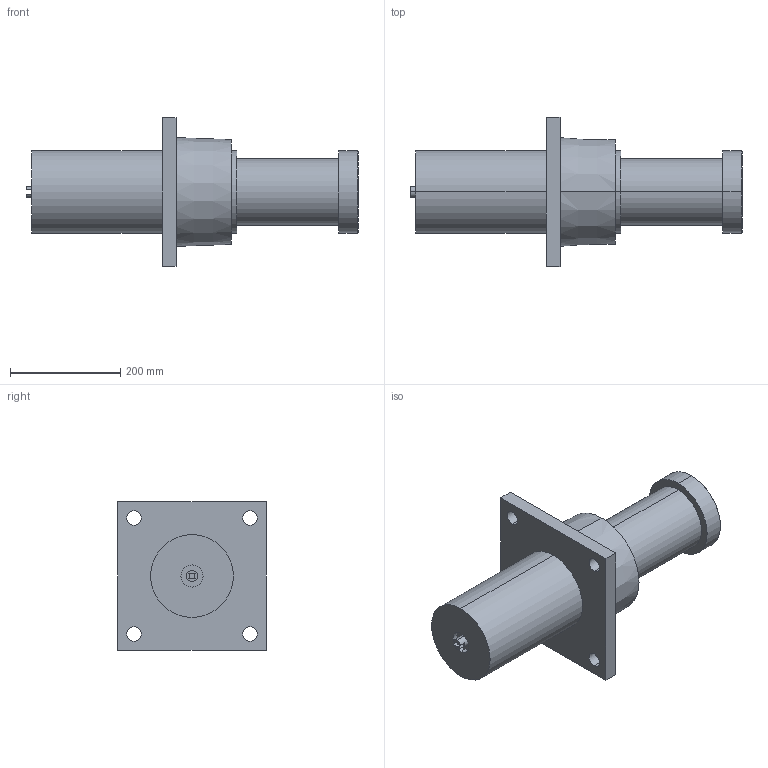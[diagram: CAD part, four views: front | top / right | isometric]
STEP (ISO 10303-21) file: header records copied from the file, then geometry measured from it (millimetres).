
FILE_DESCRIPTION (( 'STEP AP214' ), '1' );
FILE_NAME ('LDH150X150FF.STEP', '2019-01-21T05:02:57', ( 'user' ), ( 'Microsoft' ), 'SwSTEP 2.0', 'SolidWorks 2016', '' );
FILE_SCHEMA (( 'AUTOMOTIVE_DESIGN' ));
Length unit declared in the file: millimetre
Products named in the file (1): LDH150X150FF
Bounding box: 602 x 270 x 270 mm (x, y, z)
Volume: 11766310.4 mm3; surface area: 453607.1 mm2
Topology: 1 solids, 5 shells, 63 faces, 136 edges, 90 vertices
Faces by surface type: cylinder 30, plane 29, cone 4
Entity records: 1790 total; most frequent: DIRECTION 338, CARTESIAN_POINT 290, ORIENTED_EDGE 272, AXIS2_PLACEMENT_3D 138, EDGE_CURVE 136, VERTEX_POINT 90, EDGE_LOOP 78, CIRCLE 74
